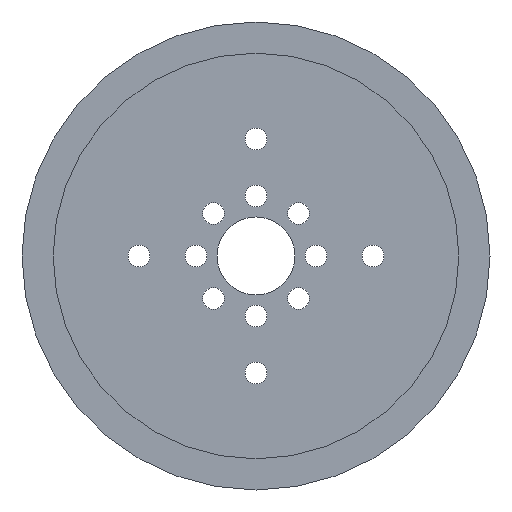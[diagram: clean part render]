
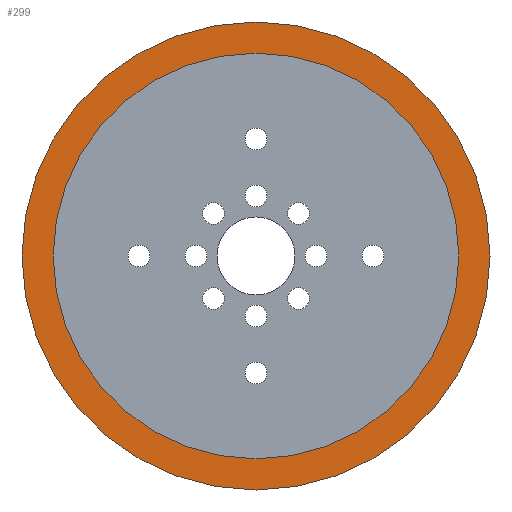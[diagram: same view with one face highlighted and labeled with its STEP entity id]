
A CAD part, front view. The second image highlights one B-rep face of the part: STEP entity #299.
In plain terms, the highlighted planar face has unit normal (0, -1, 0) as drawn and (1, 0, 0) by its records, which use the part's own axes.
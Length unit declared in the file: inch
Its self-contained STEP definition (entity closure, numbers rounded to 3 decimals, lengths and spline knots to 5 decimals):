
#13 = CARTESIAN_POINT ( 'NONE',  ( 0.1125, 0., 0. ) ) ;
#27 = VERTEX_POINT ( 'NONE', #1218 ) ;
#173 = DIRECTION ( 'NONE',  ( -1., 0., 0. ) ) ;
#233 = EDGE_LOOP ( 'NONE', ( #478, #1307 ) ) ;
#256 = AXIS2_PLACEMENT_3D ( 'NONE', #1508, #173, #1220 ) ;
#262 = EDGE_LOOP ( 'NONE', ( #628, #1040 ) ) ;
#299 = ADVANCED_FACE ( 'NONE', ( #576, #1521 ), #1689, .T. ) ;
#311 = CARTESIAN_POINT ( 'NONE',  ( 0.1125, 0., 1.5 ) ) ;
#330 = CIRCLE ( 'NONE', #867, 1.5 ) ;
#352 = CIRCLE ( 'NONE', #256, 1.5 ) ;
#403 = EDGE_CURVE ( 'NONE', #27, #417, #352, .T. ) ;
#417 = VERTEX_POINT ( 'NONE', #311 ) ;
#478 = ORIENTED_EDGE ( 'NONE', *, *, #899, .F. ) ;
#514 = DIRECTION ( 'NONE',  ( 0., 0., 1. ) ) ;
#538 = CARTESIAN_POINT ( 'NONE',  ( 0.1125, 0., 0. ) ) ;
#576 = FACE_BOUND ( 'NONE', #262, .T. ) ;
#609 = CARTESIAN_POINT ( 'NONE',  ( 0.1125, 0., 0. ) ) ;
#628 = ORIENTED_EDGE ( 'NONE', *, *, #788, .T. ) ;
#679 = CARTESIAN_POINT ( 'NONE',  ( 0.1125, 0., 1.3 ) ) ;
#711 = EDGE_CURVE ( 'NONE', #881, #1627, #1308, .T. ) ;
#769 = AXIS2_PLACEMENT_3D ( 'NONE', #13, #1479, #948 ) ;
#788 = EDGE_CURVE ( 'NONE', #1627, #881, #1518, .T. ) ;
#790 = DIRECTION ( 'NONE',  ( 1., 0., 0. ) ) ;
#824 = DIRECTION ( 'NONE',  ( -1., 0., 0. ) ) ;
#867 = AXIS2_PLACEMENT_3D ( 'NONE', #1635, #824, #1491 ) ;
#881 = VERTEX_POINT ( 'NONE', #1520 ) ;
#899 = EDGE_CURVE ( 'NONE', #417, #27, #330, .T. ) ;
#924 = DIRECTION ( 'NONE',  ( 0., 0., -1. ) ) ;
#948 = DIRECTION ( 'NONE',  ( 0., 0., 1. ) ) ;
#1040 = ORIENTED_EDGE ( 'NONE', *, *, #711, .T. ) ;
#1123 = AXIS2_PLACEMENT_3D ( 'NONE', #538, #790, #924 ) ;
#1173 = DIRECTION ( 'NONE',  ( -1., 0., 0. ) ) ;
#1218 = CARTESIAN_POINT ( 'NONE',  ( 0.1125, 0., -1.5 ) ) ;
#1220 = DIRECTION ( 'NONE',  ( 0., 0., 1. ) ) ;
#1307 = ORIENTED_EDGE ( 'NONE', *, *, #403, .F. ) ;
#1308 = CIRCLE ( 'NONE', #1364, 1.3 ) ;
#1364 = AXIS2_PLACEMENT_3D ( 'NONE', #609, #1173, #514 ) ;
#1479 = DIRECTION ( 'NONE',  ( -1., 0., 0. ) ) ;
#1491 = DIRECTION ( 'NONE',  ( 0., 0., 1. ) ) ;
#1508 = CARTESIAN_POINT ( 'NONE',  ( 0.1125, 0., 0. ) ) ;
#1518 = CIRCLE ( 'NONE', #769, 1.3 ) ;
#1520 = CARTESIAN_POINT ( 'NONE',  ( 0.1125, 0., -1.3 ) ) ;
#1521 = FACE_OUTER_BOUND ( 'NONE', #233, .T. ) ;
#1627 = VERTEX_POINT ( 'NONE', #679 ) ;
#1635 = CARTESIAN_POINT ( 'NONE',  ( 0.1125, 0., 0. ) ) ;
#1689 = PLANE ( 'NONE',  #1123 ) ;
